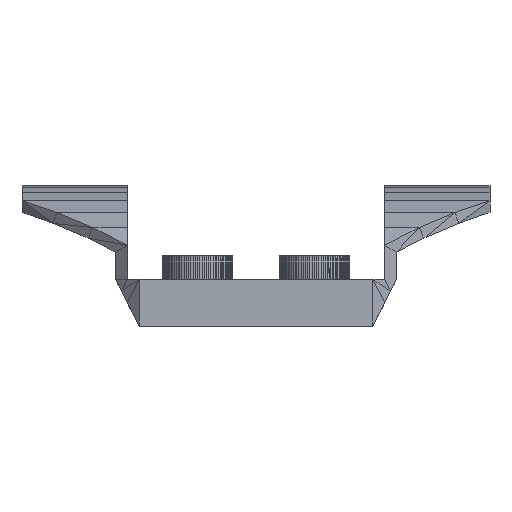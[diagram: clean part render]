
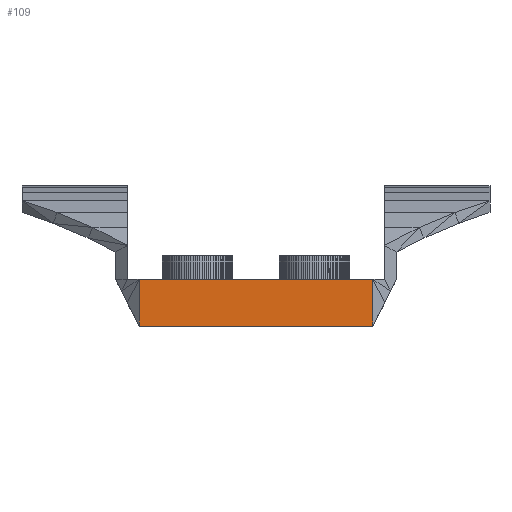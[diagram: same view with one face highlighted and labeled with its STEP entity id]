
A CAD part, front view. The second image highlights one B-rep face of the part: STEP entity #109.
In plain terms, the highlighted planar face has unit normal (0, -1, 0).
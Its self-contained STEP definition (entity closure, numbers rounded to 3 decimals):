
#24 = VERTEX_POINT('',#25);
#25 = CARTESIAN_POINT('',(-7.994,-7.994,3.2));
#32 = PLANE('',#33);
#33 = AXIS2_PLACEMENT_3D('',#34,#35,#36);
#34 = CARTESIAN_POINT('',(-7.994,-7.994,3.2));
#35 = DIRECTION('',(-0.701,-0.713,-0.));
#36 = DIRECTION('',(-0.713,0.701,0.));
#57 = VERTEX_POINT('',#58);
#58 = CARTESIAN_POINT('',(-7.994,-7.994,0.
    ));
#84 = EDGE_CURVE('',#57,#24,#85,.T.);
#85 = SURFACE_CURVE('',#86,(#90,#97),.PCURVE_S1.);
#86 = LINE('',#87,#88);
#87 = CARTESIAN_POINT('',(-7.994,-7.994,0.
    ));
#88 = VECTOR('',#89,1.);
#89 = DIRECTION('',(0.,0.,1.));
#90 = PCURVE('',#32,#91);
#91 = DEFINITIONAL_REPRESENTATION('',(#92),#96);
#92 = LINE('',#93,#94);
#93 = CARTESIAN_POINT('',(0.,3.2));
#94 = VECTOR('',#95,1.);
#95 = DIRECTION('',(0.,-1.));
#96 = ( GEOMETRIC_REPRESENTATION_CONTEXT(2) 
PARAMETRIC_REPRESENTATION_CONTEXT() REPRESENTATION_CONTEXT('2D SPACE',''
  ) );
#97 = PCURVE('',#98,#103);
#98 = PLANE('',#99);
#99 = AXIS2_PLACEMENT_3D('',#100,#101,#102);
#100 = CARTESIAN_POINT('',(-0.006,-7.994,
    0.));
#101 = DIRECTION('',(0.,-1.,0.));
#102 = DIRECTION('',(0.,-0.,-1.));
#103 = DEFINITIONAL_REPRESENTATION('',(#104),#108);
#104 = LINE('',#105,#106);
#105 = CARTESIAN_POINT('',(-0.,-7.987));
#106 = VECTOR('',#107,1.);
#107 = DIRECTION('',(-1.,0.));
#108 = ( GEOMETRIC_REPRESENTATION_CONTEXT(2) 
PARAMETRIC_REPRESENTATION_CONTEXT() REPRESENTATION_CONTEXT('2D SPACE',''
  ) );
#109 = ADVANCED_FACE('',(#110),#98,.T.);
#110 = FACE_BOUND('',#111,.T.);
#111 = EDGE_LOOP('',(#112,#113,#141,#169,#197));
#112 = ORIENTED_EDGE('',*,*,#84,.F.);
#113 = ORIENTED_EDGE('',*,*,#114,.T.);
#114 = EDGE_CURVE('',#57,#115,#117,.T.);
#115 = VERTEX_POINT('',#116);
#116 = CARTESIAN_POINT('',(-0.006,-7.994,
    0.));
#117 = SURFACE_CURVE('',#118,(#122,#129),.PCURVE_S1.);
#118 = LINE('',#119,#120);
#119 = CARTESIAN_POINT('',(-7.994,-7.994,
    0.));
#120 = VECTOR('',#121,1.);
#121 = DIRECTION('',(1.,0.,0.));
#122 = PCURVE('',#98,#123);
#123 = DEFINITIONAL_REPRESENTATION('',(#124),#128);
#124 = LINE('',#125,#126);
#125 = CARTESIAN_POINT('',(-0.,-7.987));
#126 = VECTOR('',#127,1.);
#127 = DIRECTION('',(0.,1.));
#128 = ( GEOMETRIC_REPRESENTATION_CONTEXT(2) 
PARAMETRIC_REPRESENTATION_CONTEXT() REPRESENTATION_CONTEXT('2D SPACE',''
  ) );
#129 = PCURVE('',#130,#135);
#130 = PLANE('',#131);
#131 = AXIS2_PLACEMENT_3D('',#132,#133,#134);
#132 = CARTESIAN_POINT('',(-7.994,-7.994,
    0.));
#133 = DIRECTION('',(0.,0.,-1.));
#134 = DIRECTION('',(-1.,0.,-0.));
#135 = DEFINITIONAL_REPRESENTATION('',(#136),#140);
#136 = LINE('',#137,#138);
#137 = CARTESIAN_POINT('',(0.,0.));
#138 = VECTOR('',#139,1.);
#139 = DIRECTION('',(-1.,0.));
#140 = ( GEOMETRIC_REPRESENTATION_CONTEXT(2) 
PARAMETRIC_REPRESENTATION_CONTEXT() REPRESENTATION_CONTEXT('2D SPACE',''
  ) );
#141 = ORIENTED_EDGE('',*,*,#142,.T.);
#142 = EDGE_CURVE('',#115,#143,#145,.T.);
#143 = VERTEX_POINT('',#144);
#144 = CARTESIAN_POINT('',(7.994,-7.994,
    0.));
#145 = SURFACE_CURVE('',#146,(#150,#157),.PCURVE_S1.);
#146 = LINE('',#147,#148);
#147 = CARTESIAN_POINT('',(-0.006,-7.994,
    0.));
#148 = VECTOR('',#149,1.);
#149 = DIRECTION('',(1.,0.,0.));
#150 = PCURVE('',#98,#151);
#151 = DEFINITIONAL_REPRESENTATION('',(#152),#156);
#152 = LINE('',#153,#154);
#153 = CARTESIAN_POINT('',(0.,0.));
#154 = VECTOR('',#155,1.);
#155 = DIRECTION('',(0.,1.));
#156 = ( GEOMETRIC_REPRESENTATION_CONTEXT(2) 
PARAMETRIC_REPRESENTATION_CONTEXT() REPRESENTATION_CONTEXT('2D SPACE',''
  ) );
#157 = PCURVE('',#158,#163);
#158 = PLANE('',#159);
#159 = AXIS2_PLACEMENT_3D('',#160,#161,#162);
#160 = CARTESIAN_POINT('',(-0.006,-7.994,
    0.));
#161 = DIRECTION('',(0.,0.,-1.));
#162 = DIRECTION('',(0.,-1.,0.));
#163 = DEFINITIONAL_REPRESENTATION('',(#164),#168);
#164 = LINE('',#165,#166);
#165 = CARTESIAN_POINT('',(0.,0.));
#166 = VECTOR('',#167,1.);
#167 = DIRECTION('',(0.,-1.));
#168 = ( GEOMETRIC_REPRESENTATION_CONTEXT(2) 
PARAMETRIC_REPRESENTATION_CONTEXT() REPRESENTATION_CONTEXT('2D SPACE',''
  ) );
#169 = ORIENTED_EDGE('',*,*,#170,.T.);
#170 = EDGE_CURVE('',#143,#171,#173,.T.);
#171 = VERTEX_POINT('',#172);
#172 = CARTESIAN_POINT('',(7.994,-7.994,3.2)
  );
#173 = SURFACE_CURVE('',#174,(#178,#185),.PCURVE_S1.);
#174 = LINE('',#175,#176);
#175 = CARTESIAN_POINT('',(7.994,-7.994,
    0.));
#176 = VECTOR('',#177,1.);
#177 = DIRECTION('',(0.,0.,1.));
#178 = PCURVE('',#98,#179);
#179 = DEFINITIONAL_REPRESENTATION('',(#180),#184);
#180 = LINE('',#181,#182);
#181 = CARTESIAN_POINT('',(0.,8.));
#182 = VECTOR('',#183,1.);
#183 = DIRECTION('',(-1.,0.));
#184 = ( GEOMETRIC_REPRESENTATION_CONTEXT(2) 
PARAMETRIC_REPRESENTATION_CONTEXT() REPRESENTATION_CONTEXT('2D SPACE',''
  ) );
#185 = PCURVE('',#186,#191);
#186 = PLANE('',#187);
#187 = AXIS2_PLACEMENT_3D('',#188,#189,#190);
#188 = CARTESIAN_POINT('',(7.994,-7.994,3.2)
  );
#189 = DIRECTION('',(0.701,-0.713,0.));
#190 = DIRECTION('',(-0.713,-0.701,0.));
#191 = DEFINITIONAL_REPRESENTATION('',(#192),#196);
#192 = LINE('',#193,#194);
#193 = CARTESIAN_POINT('',(-0.,3.2));
#194 = VECTOR('',#195,1.);
#195 = DIRECTION('',(0.,-1.));
#196 = ( GEOMETRIC_REPRESENTATION_CONTEXT(2) 
PARAMETRIC_REPRESENTATION_CONTEXT() REPRESENTATION_CONTEXT('2D SPACE',''
  ) );
#197 = ORIENTED_EDGE('',*,*,#198,.F.);
#198 = EDGE_CURVE('',#24,#171,#199,.T.);
#199 = SURFACE_CURVE('',#200,(#204,#211),.PCURVE_S1.);
#200 = LINE('',#201,#202);
#201 = CARTESIAN_POINT('',(-7.994,-7.994,3.2));
#202 = VECTOR('',#203,1.);
#203 = DIRECTION('',(1.,0.,0.));
#204 = PCURVE('',#98,#205);
#205 = DEFINITIONAL_REPRESENTATION('',(#206),#210);
#206 = LINE('',#207,#208);
#207 = CARTESIAN_POINT('',(-3.2,-7.987));
#208 = VECTOR('',#209,1.);
#209 = DIRECTION('',(0.,1.));
#210 = ( GEOMETRIC_REPRESENTATION_CONTEXT(2) 
PARAMETRIC_REPRESENTATION_CONTEXT() REPRESENTATION_CONTEXT('2D SPACE',''
  ) );
#211 = PCURVE('',#212,#217);
#212 = PLANE('',#213);
#213 = AXIS2_PLACEMENT_3D('',#214,#215,#216);
#214 = CARTESIAN_POINT('',(-8.8,-7.2,
    3.2));
#215 = DIRECTION('',(0.,0.,1.));
#216 = DIRECTION('',(1.,0.,-0.));
#217 = DEFINITIONAL_REPRESENTATION('',(#218),#222);
#218 = LINE('',#219,#220);
#219 = CARTESIAN_POINT('',(0.806,-0.794));
#220 = VECTOR('',#221,1.);
#221 = DIRECTION('',(1.,0.));
#222 = ( GEOMETRIC_REPRESENTATION_CONTEXT(2) 
PARAMETRIC_REPRESENTATION_CONTEXT() REPRESENTATION_CONTEXT('2D SPACE',''
  ) );
